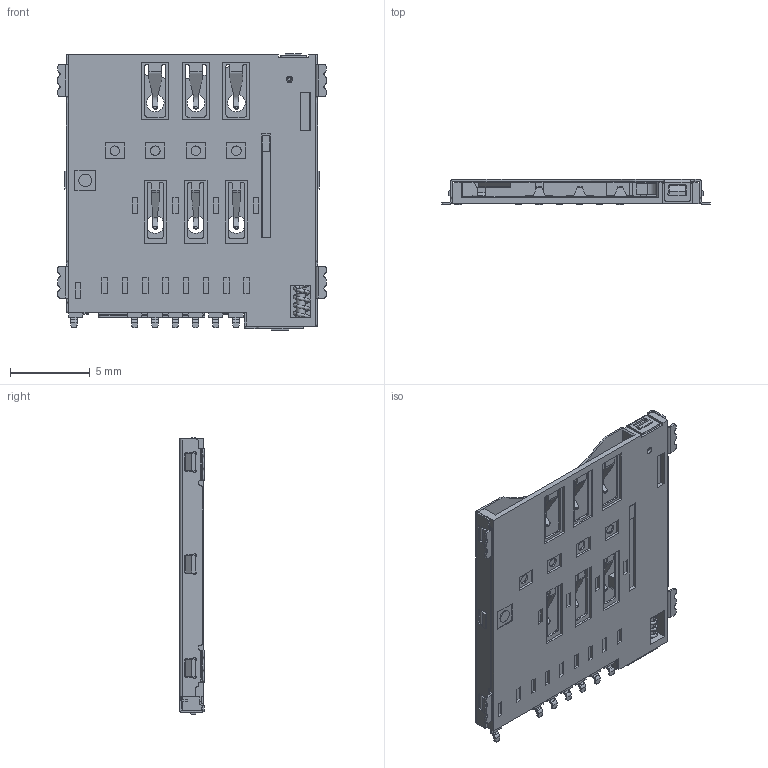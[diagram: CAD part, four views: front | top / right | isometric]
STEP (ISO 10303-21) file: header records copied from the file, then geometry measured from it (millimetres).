
FILE_DESCRIPTION((''),'2;1');
FILE_NAME('SMPI-S07_A2__ASM','2025-08-12T',('PMT1 SFT'),(''),'PRO/ENGINEER BY PARAMETRIC TECHNOLOGY CORPORATION, 2011490','PRO/ENGINEER BY PARAMETRIC TECHNOLOGY CORPORATION, 2011490','');
FILE_SCHEMA(('CONFIG_CONTROL_DESIGN'));
Products named in the file (5): PRT0011_1_1_1; ASM0047_ASM_1_1_ASM_1_ASM_ASM; MS001-000_1_5H_PUS0001_ASM_1_AS_ASM; 102011342-MS001-000_1_5H_6PIN_M_ASM; SMPI-S07_A2__ASM
Assembly tree (4 placements, depth 5):
  SMPI-S07_A2__ASM
    102011342-MS001-000_1_5H_6PIN_M_ASM
      MS001-000_1_5H_PUS0001_ASM_1_AS_ASM
        ASM0047_ASM_1_1_ASM_1_ASM_ASM
          PRT0011_1_1_1
Bounding box: 16.83 x 1.54 x 17.3 mm (x, y, z)
Volume: 160.7 mm3; surface area: 1336.9 mm2
Topology: 1 solids, 1 shells, 1643 faces, 4451 edges, 2862 vertices
Faces by surface type: plane 958, cylinder 426, bspline 241, torus 10, cone 6, extrusion 2
Entity records: 68103 total; most frequent: CARTESIAN_POINT 27835, ORIENTED_EDGE 8902, DIRECTION 7449, EDGE_CURVE 4451, VECTOR 2919, LINE 2917, VERTEX_POINT 2862, AXIS2_PLACEMENT_3D 2265
